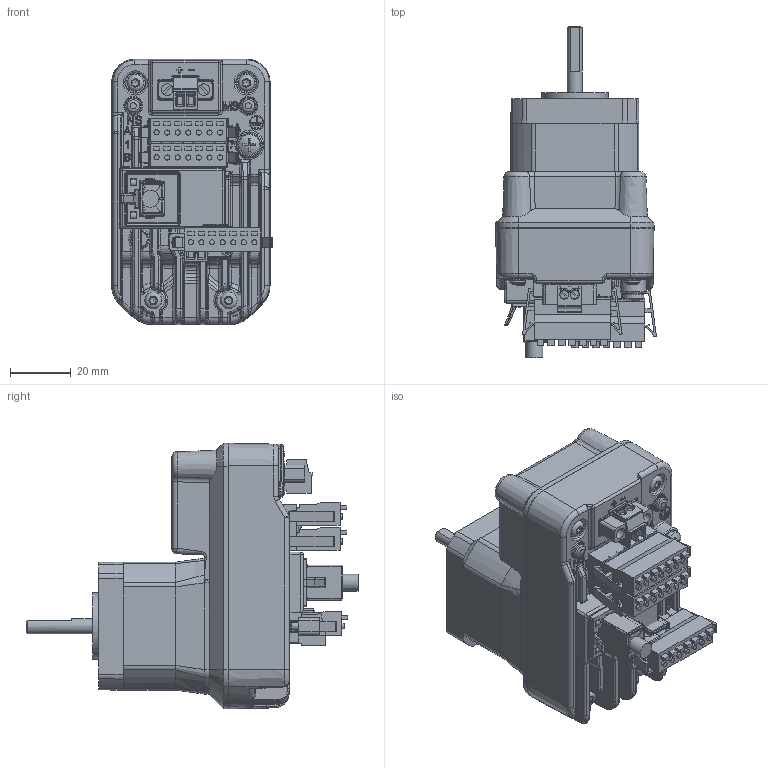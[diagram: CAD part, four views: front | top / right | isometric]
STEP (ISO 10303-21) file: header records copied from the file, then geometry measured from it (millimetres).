
FILE_DESCRIPTION(('LMDXE42-Single-Stack Web Model.stp'),'1');
FILE_NAME('C:/temp/LMDXE42-Single-Stack Web Model.stp', '2013-09-24T14:33:34',('P. Bordua, 09/24/13'), ('Schneider Electric Motion USA'), 'KCM Version 1.1.794.0', 'Kubotek KeyCreator', 'Kubotek KeyCreator 2014 V12.0');
FILE_SCHEMA(('AUTOMOTIVE_DESIGN'));
Length unit declared in the file: inch
Products named in the file (6): Dinkle 0221-24-B3085308P, Pin-5 Keyed, Plug, 3.50mm Pitch, 7 x 1 Pos., Locking Tabs[Part1]; Dinkle 0221-24-B3085308P, Pin-2 Keyed, Plug, 3.50mm Pitch, 7 x 1 Pos., Locking Tabs[Part1]; Dinkle EC350VM-B3081302P, Plug, 3.50 mm, 2 x 1 Pos[Part1]; RJ45 Mate[Part1]
Bounding box: 53.03 x 109.58 x 87.6 mm (x, y, z)
Volume: 202718.4 mm3; surface area: 49030 mm2
Topology: 9 solids, 13 shells, 4293 faces, 10953 edges, 6940 vertices
Faces by surface type: plane 2401, cylinder 1007, bspline 607, cone 111, torus 100, sphere 67
Full cylindrical faces by diameter (mm): 1.6 x31, 1.611 x4, 1.686 x28, 2.449 x4, 2.5 x2, 3.505 x1, 3.792 x4, 5 x1, 5.004 x2, 5.588 x2, 5.6 x4, 6.858 x1, 7.62 x1, 9.525 x1, 21.996 x1
Entity records: 143964 total; most frequent: CARTESIAN_POINT 58861, ORIENTED_EDGE 16442, DIRECTION 14680, EDGE_CURVE 8221, VERTEX_POINT 5180, AXIS2_PLACEMENT_3D 4913, VECTOR 4854, LINE 4854
